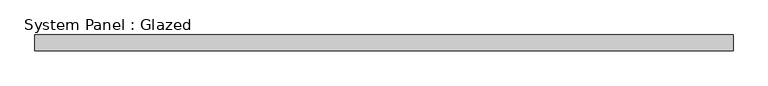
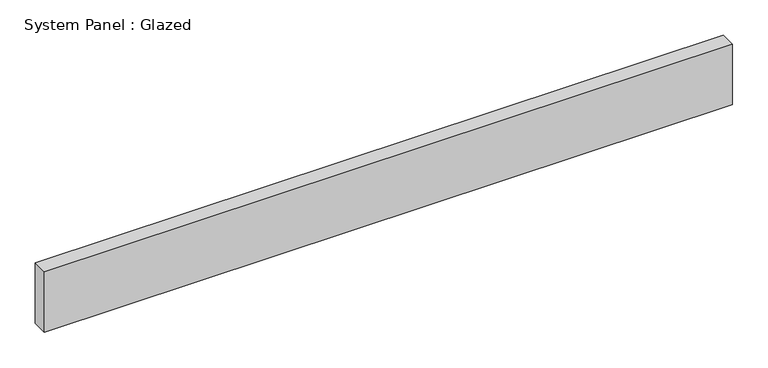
"""IFC4 building model written with IfcOpenShell, lengths in millimetres: plate geometry, System Panel : Glazed."""

from ifc_helpers import new_model, si_unit, origin, origin_with_axes, place, context, project, spatial, polyline, outline, extrude, source, transform, mapped, element, save


def system_panel_glazed_8ef02081(model_context):
    return source(origin(), model_context, "Body", "SweptSolid", [
        extrude(outline(polyline([(561.975, -44.45), (-561.975, -44.45), (-561.975, -19.05), (561.975, -19.05), (561.975, -44.45)])), origin_with_axes(), (0.0, 0.0, 1.0), 104.775),
    ])


if __name__ == "__main__":
    model = new_model("IFC4")
    model_context = context("Model", 3, world=origin())
    ifc_project = project(units=[si_unit("LENGTHUNIT", "METRE", prefix="MILLI")], contexts=[model_context])
    site = spatial("IfcSite", under=ifc_project)
    building = spatial("IfcBuilding", under=site)
    placement = place(None, origin())
    system_panel_glazed_shape = system_panel_glazed_8ef02081(model_context)
    element("IfcPlate", 1, ObjectType="System Panel : Glazed", at=placement, inside=building, context=model_context, shape_type="MappedRepresentation", body=[
        mapped(system_panel_glazed_shape, transform((0.0, 0.0, 0.0), x_axis=(1.0, 0.0, 0.0), y_axis=(0.0, 1.0, 0.0), z_axis=(0.0, 0.0, 1.0))),
    ])
    save(model, "model.ifc")
